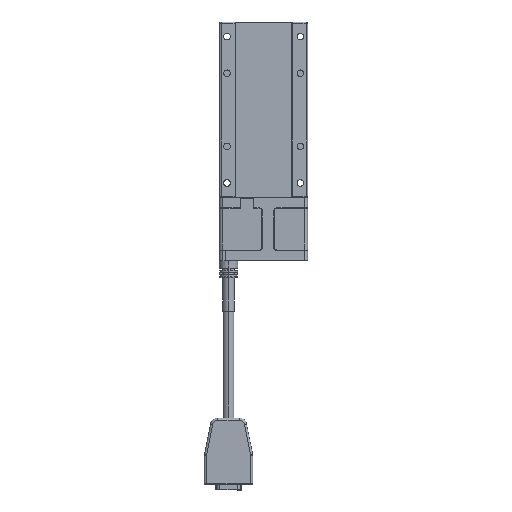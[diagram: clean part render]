
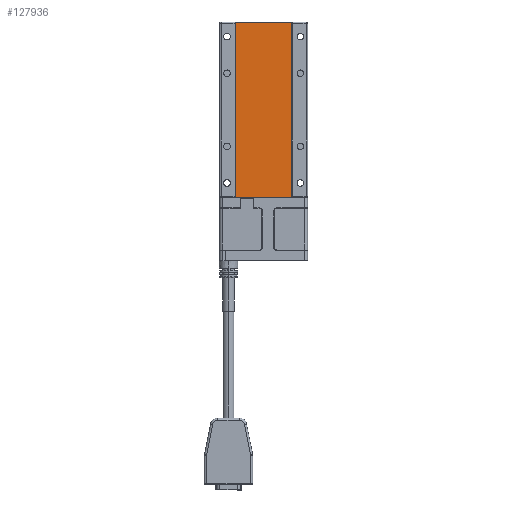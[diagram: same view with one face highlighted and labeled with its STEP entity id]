
A CAD part, front view. The second image highlights one B-rep face of the part: STEP entity #127936.
In plain terms, the highlighted planar face has unit normal (0, -1, 0).
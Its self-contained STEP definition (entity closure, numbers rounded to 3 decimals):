
#3847 = VECTOR ( 'NONE', #29611, 1000. ) ;
#4280 = VERTEX_POINT ( 'NONE', #113571 ) ;
#6737 = DIRECTION ( 'NONE',  ( 0., 1., 0. ) ) ;
#16272 = VECTOR ( 'NONE', #90175, 1000. ) ;
#16995 = VERTEX_POINT ( 'NONE', #97995 ) ;
#17848 = PLANE ( 'NONE',  #35970 ) ;
#19100 = CARTESIAN_POINT ( 'NONE',  ( 26.298, -5.179, 42.908 ) ) ;
#22144 = EDGE_CURVE ( 'NONE', #4280, #72429, #109112, .T. ) ;
#25718 = ORIENTED_EDGE ( 'NONE', *, *, #22144, .T. ) ;
#29611 = DIRECTION ( 'NONE',  ( 0., 0., 1. ) ) ;
#35970 = AXIS2_PLACEMENT_3D ( 'NONE', #36904, #6737, #126869 ) ;
#36904 = CARTESIAN_POINT ( 'NONE',  ( 26.298, -5.179, -76.692 ) ) ;
#38380 = CARTESIAN_POINT ( 'NONE',  ( 26.298, -5.179, -76.692 ) ) ;
#38501 = CARTESIAN_POINT ( 'NONE',  ( -12.302, -5.179, -76.692 ) ) ;
#38693 = DIRECTION ( 'NONE',  ( -1., 0., 0. ) ) ;
#51549 = EDGE_LOOP ( 'NONE', ( #25718, #115521, #124885, #122262 ) ) ;
#52020 = LINE ( 'NONE', #80323, #16272 ) ;
#64290 = VECTOR ( 'NONE', #118513, 1000. ) ;
#67163 = CARTESIAN_POINT ( 'NONE',  ( 26.298, -5.179, 42.908 ) ) ;
#72429 = VERTEX_POINT ( 'NONE', #67163 ) ;
#79472 = EDGE_CURVE ( 'NONE', #16995, #97793, #52020, .T. ) ;
#80323 = CARTESIAN_POINT ( 'NONE',  ( -12.302, -5.179, 42.908 ) ) ;
#82984 = CARTESIAN_POINT ( 'NONE',  ( 26.298, -5.179, 42.908 ) ) ;
#89442 = FACE_OUTER_BOUND ( 'NONE', #51549, .T. ) ;
#90175 = DIRECTION ( 'NONE',  ( 0., 0., -1. ) ) ;
#97793 = VERTEX_POINT ( 'NONE', #38501 ) ;
#97995 = CARTESIAN_POINT ( 'NONE',  ( -12.302, -5.179, 42.908 ) ) ;
#102029 = LINE ( 'NONE', #82984, #114006 ) ;
#106737 = LINE ( 'NONE', #38380, #64290 ) ;
#109112 = LINE ( 'NONE', #19100, #3847 ) ;
#113571 = CARTESIAN_POINT ( 'NONE',  ( 26.298, -5.179, -76.692 ) ) ;
#114006 = VECTOR ( 'NONE', #38693, 1000. ) ;
#115521 = ORIENTED_EDGE ( 'NONE', *, *, #121166, .T. ) ;
#118513 = DIRECTION ( 'NONE',  ( 1., 0., 0. ) ) ;
#121166 = EDGE_CURVE ( 'NONE', #72429, #16995, #102029, .T. ) ;
#122105 = EDGE_CURVE ( 'NONE', #97793, #4280, #106737, .T. ) ;
#122262 = ORIENTED_EDGE ( 'NONE', *, *, #122105, .T. ) ;
#124885 = ORIENTED_EDGE ( 'NONE', *, *, #79472, .T. ) ;
#126869 = DIRECTION ( 'NONE',  ( 1., 0., 0. ) ) ;
#127936 = ADVANCED_FACE ( 'NONE', ( #89442 ), #17848, .F. ) ;
